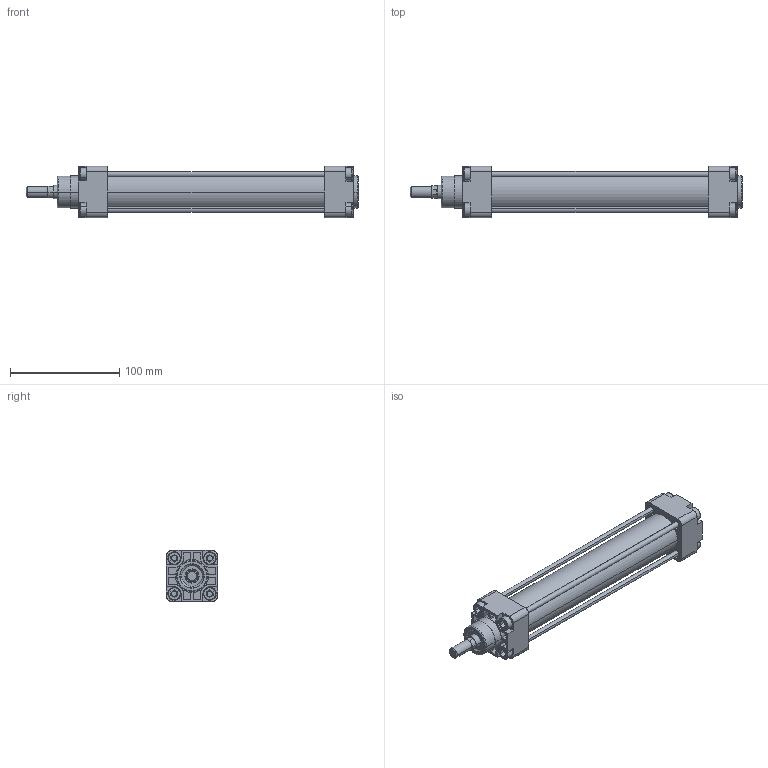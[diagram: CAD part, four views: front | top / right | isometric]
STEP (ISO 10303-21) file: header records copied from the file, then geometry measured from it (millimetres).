
FILE_DESCRIPTION(('CATIA V5 STEP Exchange'),'2;1');
FILE_NAME('D:\stp file for catalog\PNC\32\PNC 32-12-160.stp','2015-05-25T07:48:10+00:00',('none'),('none'),'Version 5-6 Release 2012','CATIA V5 STEP AP203','none');
FILE_SCHEMA(('CONFIG_CONTROL_DESIGN'));
Length unit declared in the file: millimetre
Products named in the file (1): PNC 12-160-00
Assembly tree (2 placements, depth 2):
  PNC 12-160-00
    #58
    #15737
Bounding box: 304 x 47 x 47 mm (x, y, z)
Volume: 216642.4 mm3; surface area: 108762.9 mm2
Topology: 6 solids, 6 shells, 587 faces, 1488 edges, 974 vertices
Faces by surface type: plane 359, cylinder 166, torus 26, cone 20, extrusion 16
Entity records: 16261 total; most frequent: CARTESIAN_POINT 3407, ORIENTED_EDGE 2976, DIRECTION 1948, EDGE_CURVE 1488, VERTEX_POINT 974, VECTOR 896, LINE 880, AXIS2_PLACEMENT_3D 773
